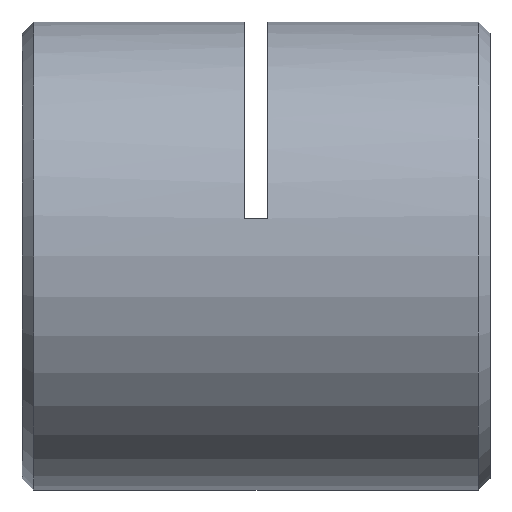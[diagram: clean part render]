
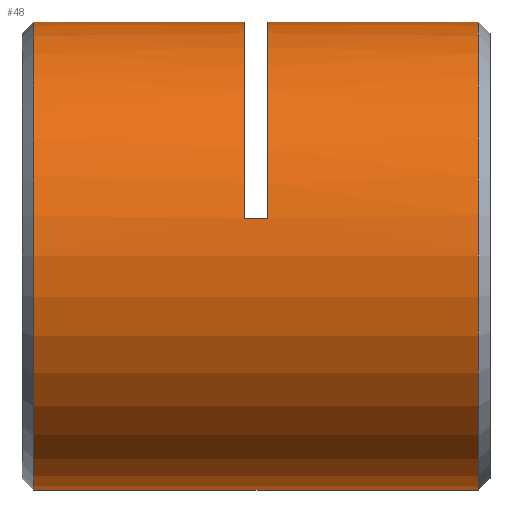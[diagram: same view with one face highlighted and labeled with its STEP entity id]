
A CAD part, left-side view. The second image highlights one B-rep face of the part: STEP entity #48.
In plain terms, the highlighted cylindrical face has radius 8 mm (diameter 16 mm), a partial arc.
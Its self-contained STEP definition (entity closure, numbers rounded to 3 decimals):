
#28 = AXIS2_PLACEMENT_3D ( 'NONE', #1949, #2250, #1063 ) ;
#48 = ADVANCED_FACE ( 'NONE', ( #3352 ), #2870, .T. ) ;
#130 = CARTESIAN_POINT ( 'NONE',  ( 0., 0.65, -8. ) ) ;
#172 = CARTESIAN_POINT ( 'NONE',  ( -7.897, 8.25, 1.28 ) ) ;
#211 = EDGE_CURVE ( 'NONE', #3714, #3243, #2741, .T. ) ;
#230 = DIRECTION ( 'NONE',  ( 0., 1., 0. ) ) ;
#267 = EDGE_CURVE ( 'NONE', #2067, #296, #2265, .T. ) ;
#279 = VERTEX_POINT ( 'NONE', #3366 ) ;
#291 = CARTESIAN_POINT ( 'NONE',  ( 0., 0.25, 8. ) ) ;
#296 = VERTEX_POINT ( 'NONE', #2218 ) ;
#494 = DIRECTION ( 'NONE',  ( 0., 0., 1. ) ) ;
#556 = LINE ( 'NONE', #836, #817 ) ;
#597 = EDGE_CURVE ( 'NONE', #2067, #659, #556, .T. ) ;
#659 = VERTEX_POINT ( 'NONE', #2744 ) ;
#666 = DIRECTION ( 'NONE',  ( 0., 1., 0. ) ) ;
#682 = CARTESIAN_POINT ( 'NONE',  ( -7.897, 8.65, 1.28 ) ) ;
#686 = DIRECTION ( 'NONE',  ( 0., 1., 0. ) ) ;
#695 = AXIS2_PLACEMENT_3D ( 'NONE', #1328, #2519, #494 ) ;
#728 = DIRECTION ( 'NONE',  ( 0., 1., 0. ) ) ;
#741 = CARTESIAN_POINT ( 'NONE',  ( 0., 8.65, 8. ) ) ;
#761 = VECTOR ( 'NONE', #230, 1000. ) ;
#782 = ORIENTED_EDGE ( 'NONE', *, *, #3752, .T. ) ;
#817 = VECTOR ( 'NONE', #2913, 1000. ) ;
#836 = CARTESIAN_POINT ( 'NONE',  ( 0., 0.25, -8. ) ) ;
#851 = ORIENTED_EDGE ( 'NONE', *, *, #2785, .T. ) ;
#861 = EDGE_CURVE ( 'NONE', #3714, #2779, #2718, .T. ) ;
#900 = ORIENTED_EDGE ( 'NONE', *, *, #861, .F. ) ;
#986 = DIRECTION ( 'NONE',  ( 0., 0., 1. ) ) ;
#1063 = DIRECTION ( 'NONE',  ( 0., 0., -1. ) ) ;
#1120 = DIRECTION ( 'NONE',  ( 0., 0., 1. ) ) ;
#1122 = CIRCLE ( 'NONE', #2310, 8. ) ;
#1309 = VECTOR ( 'NONE', #728, 1000. ) ;
#1328 = CARTESIAN_POINT ( 'NONE',  ( 0., 0.65, 0. ) ) ;
#1340 = ORIENTED_EDGE ( 'NONE', *, *, #1800, .T. ) ;
#1410 = CARTESIAN_POINT ( 'NONE',  ( 0., 0.25, 8. ) ) ;
#1600 = CARTESIAN_POINT ( 'NONE',  ( -7.897, 7.85, 1.28 ) ) ;
#1624 = ORIENTED_EDGE ( 'NONE', *, *, #267, .T. ) ;
#1691 = CARTESIAN_POINT ( 'NONE',  ( 0., 7.85, 0. ) ) ;
#1734 = CARTESIAN_POINT ( 'NONE',  ( 0., 0.25, 0. ) ) ;
#1752 = DIRECTION ( 'NONE',  ( 0., 1., 0. ) ) ;
#1800 = EDGE_CURVE ( 'NONE', #2221, #279, #3257, .T. ) ;
#1866 = DIRECTION ( 'NONE',  ( 0., 1., 0. ) ) ;
#1870 = AXIS2_PLACEMENT_3D ( 'NONE', #1691, #1752, #1120 ) ;
#1949 = CARTESIAN_POINT ( 'NONE',  ( 0., 15.85, 0. ) ) ;
#2067 = VERTEX_POINT ( 'NONE', #130 ) ;
#2094 = ORIENTED_EDGE ( 'NONE', *, *, #597, .F. ) ;
#2218 = CARTESIAN_POINT ( 'NONE',  ( 0., 0.65, 8. ) ) ;
#2221 = VERTEX_POINT ( 'NONE', #741 ) ;
#2250 = DIRECTION ( 'NONE',  ( 0., -1., 0. ) ) ;
#2265 = CIRCLE ( 'NONE', #695, 8. ) ;
#2310 = AXIS2_PLACEMENT_3D ( 'NONE', #2444, #666, #2739 ) ;
#2444 = CARTESIAN_POINT ( 'NONE',  ( 0., 8.65, 0. ) ) ;
#2519 = DIRECTION ( 'NONE',  ( 0., 1., 0. ) ) ;
#2610 = VECTOR ( 'NONE', #1866, 1000. ) ;
#2718 = CIRCLE ( 'NONE', #1870, 8. ) ;
#2739 = DIRECTION ( 'NONE',  ( 0., 0., 1. ) ) ;
#2741 = LINE ( 'NONE', #172, #1309 ) ;
#2744 = CARTESIAN_POINT ( 'NONE',  ( 0., 15.85, -8. ) ) ;
#2779 = VERTEX_POINT ( 'NONE', #2816 ) ;
#2785 = EDGE_CURVE ( 'NONE', #279, #659, #2940, .T. ) ;
#2801 = LINE ( 'NONE', #291, #2610 ) ;
#2816 = CARTESIAN_POINT ( 'NONE',  ( 0., 7.85, 8. ) ) ;
#2870 = CYLINDRICAL_SURFACE ( 'NONE', #3801, 8. ) ;
#2913 = DIRECTION ( 'NONE',  ( 0., 1., 0. ) ) ;
#2940 = CIRCLE ( 'NONE', #28, 8. ) ;
#3149 = EDGE_CURVE ( 'NONE', #296, #2779, #2801, .T. ) ;
#3243 = VERTEX_POINT ( 'NONE', #682 ) ;
#3257 = LINE ( 'NONE', #1410, #761 ) ;
#3298 = ORIENTED_EDGE ( 'NONE', *, *, #3149, .T. ) ;
#3344 = EDGE_LOOP ( 'NONE', ( #2094, #1624, #3298, #900, #3713, #782, #1340, #851 ) ) ;
#3352 = FACE_OUTER_BOUND ( 'NONE', #3344, .T. ) ;
#3366 = CARTESIAN_POINT ( 'NONE',  ( 0., 15.85, 8. ) ) ;
#3713 = ORIENTED_EDGE ( 'NONE', *, *, #211, .T. ) ;
#3714 = VERTEX_POINT ( 'NONE', #1600 ) ;
#3752 = EDGE_CURVE ( 'NONE', #3243, #2221, #1122, .T. ) ;
#3801 = AXIS2_PLACEMENT_3D ( 'NONE', #1734, #686, #986 ) ;
